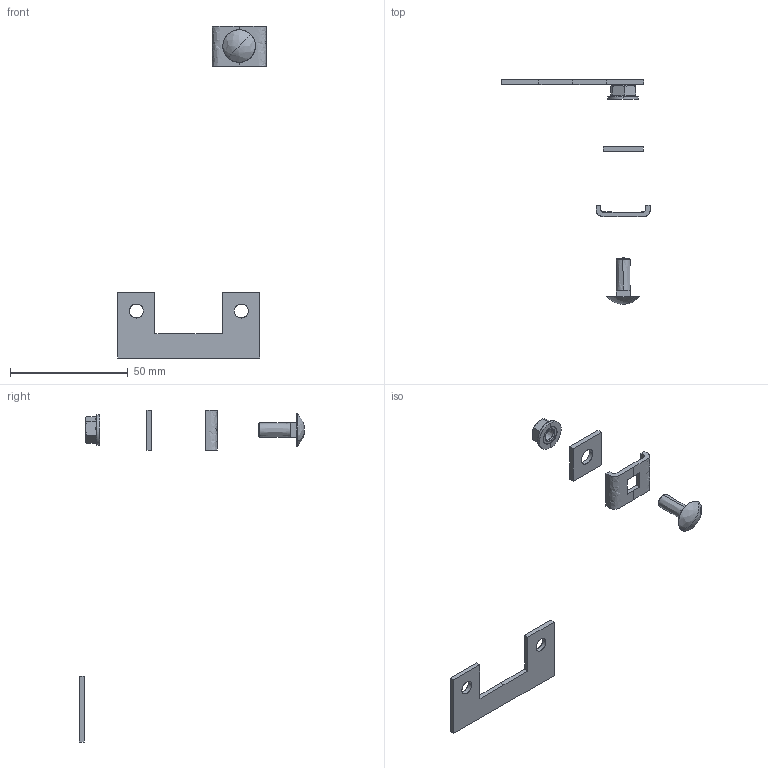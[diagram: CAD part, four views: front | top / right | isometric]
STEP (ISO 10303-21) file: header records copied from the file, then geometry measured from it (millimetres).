
FILE_DESCRIPTION(/* description */ (''),/* implementation_level */ '2;1');
FILE_NAME(/* name */ 'SZM 4',/* time_stamp */ '2012-11-29T22:22:31+01:00',/* author */ (''),/* organization */ (''),/* preprocessor_version */ 'ST-DEVELOPER v10',/* originating_system */ '',/* authorisation */ '');
FILE_SCHEMA (('AUTOMOTIVE_DESIGN_CC2'));
Length unit declared in the file: millimetre
Products named in the file (1): 1
Bounding box: 63.05 x 95.59 x 141.05 mm (x, y, z)
Surface area: 6677.2 mm2 (no closed solid volume)
Topology: 0 solids, 74 shells, 90 faces, 410 edges, 398 vertices
Faces by surface type: bspline 46, plane 44
Entity records: 7496 total; most frequent: CARTESIAN_POINT 4724, ORIENTED_EDGE 415, EDGE_CURVE 383, VERTEX_POINT 353, B_SPLINE_CURVE_WITH_KNOTS 323, EDGE_LOOP 101, COLOUR_RGB 97, PRESENTATION_STYLE_ASSIGNMENT 97
